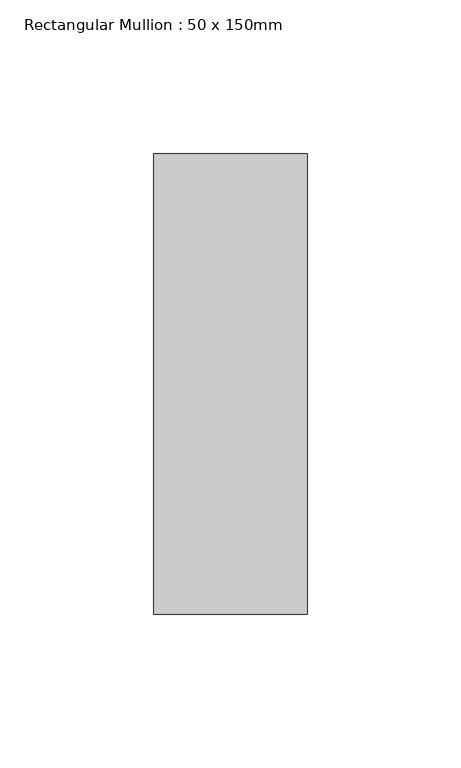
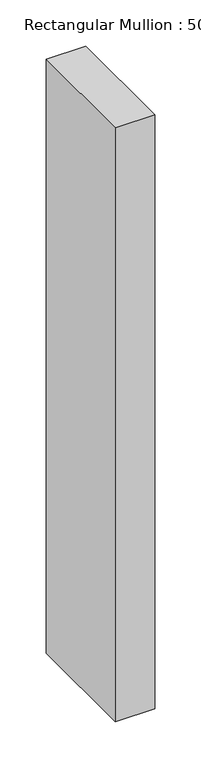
"""IFC4 building model written with IfcOpenShell, lengths in millimetres: member geometry, Rectangular Mullion : 50 x 150mm."""

import ifcopenshell
import ifcopenshell.guid

model = None  # the IFC model being written
_history = None  # IfcOwnerHistory: only IFC2X3 demands one
_inside = {}  # id of a spatial element -> (the spatial element, [elements in it])
_under = {}  # id of a project, library or spatial element -> (it, [spatial elements below it])
_declared = {}  # id of a project -> (the project, [libraries it declares])
_typed = {}  # id of a type object -> (the type object, [elements of that type])
_made_of = {}  # id of a material, layer set ... -> (it, [elements and type objects made of it])


def new_model(schema):
    """Start an empty IFC model of exactly this schema.

    Asked for "IFC4X3", IfcOpenShell would pick the latest addendum, in which some entities
    have other attributes; the version numbers below select the first issue.
    IFC2X3 requires an IfcOwnerHistory on every rooted entity: one is made here for all.
    """
    global model, _history
    if schema == "IFC4X3":
        model = ifcopenshell.file(schema_version=(4, 3, 0, 0))
    else:
        model = ifcopenshell.file(schema=schema)
    _inside.clear()
    _under.clear()
    _declared.clear()
    _typed.clear()
    _made_of.clear()
    _history = None
    if model.schema == "IFC2X3":
        org = make("IfcOrganization", Name="unknown")
        user = make(
            "IfcPersonAndOrganization",
            ThePerson=make("IfcPerson", FamilyName="unknown"),
            TheOrganization=org,
        )
        app = make(
            "IfcApplication",
            ApplicationDeveloper=org,
            Version="unknown",
            ApplicationFullName="unknown",
            ApplicationIdentifier="unknown",
        )
        _history = make(
            "IfcOwnerHistory",
            OwningUser=user,
            OwningApplication=app,
            ChangeAction="ADDED",
            CreationDate=0,
        )
    return model


def make(cls, **values):
    """One entity of the class cls with the attributes given. An attribute that is None is left unset."""
    return model.create_entity(
        cls, **{name: value for name, value in values.items() if value is not None}
    )


def rooted(cls, **values):
    """An entity with a GlobalId (a new one), such as an element, a storey or a relation."""
    return make(cls, GlobalId=ifcopenshell.guid.new(), OwnerHistory=_history, **values)


def si_unit(unit_type, name, prefix=None):
    """IfcSIUnit, for example si_unit("LENGTHUNIT", "METRE", prefix="MILLI")."""
    return make("IfcSIUnit", UnitType=unit_type, Prefix=prefix, Name=name)


def assignment(units):
    """IfcUnitAssignment: the units of a project."""
    return None if units is None else make("IfcUnitAssignment", Units=units)


def point(xyz):
    """IfcCartesianPoint."""
    return None if xyz is None else make("IfcCartesianPoint", Coordinates=xyz)


def direction(xyz):
    """IfcDirection."""
    return None if xyz is None else make("IfcDirection", DirectionRatios=xyz)


def frame(location, z_axis=None, x_axis=None):
    """IfcAxis2Placement3D, a coordinate frame: its origin and axes. An axis left out is left unset."""
    return make(
        "IfcAxis2Placement3D",
        Location=point(location),
        Axis=direction(z_axis),
        RefDirection=direction(x_axis),
    )


def origin():
    """The frame at (0, 0, 0) with its axes left unset."""
    return frame((0.0, 0.0, 0.0))


def place(relative_to, where):
    """IfcLocalPlacement: puts the frame where relative to a parent placement (None: the world)."""
    return make(
        "IfcLocalPlacement", PlacementRelTo=relative_to, RelativePlacement=where
    )


def context(
    kind, dimensions, precision=None, world=None, true_north=None, identifier=None
):
    """IfcGeometricRepresentationContext, for example the 3D "Model" context."""
    return make(
        "IfcGeometricRepresentationContext",
        ContextIdentifier=identifier,
        ContextType=kind,
        CoordinateSpaceDimension=dimensions,
        Precision=precision,
        WorldCoordinateSystem=world,
        TrueNorth=true_north,
    )


def project(units=None, contexts=None):
    """IfcProject with its units and contexts."""
    return rooted(
        "IfcProject",
        Name="project",
        RepresentationContexts=contexts,
        UnitsInContext=assignment(units),
    )


def spatial(cls, under=None, at=None, **own):
    """A site, building, storey or space (cls), placed at a placement, below another one or the project."""
    s = rooted(cls, ObjectPlacement=at, **own)
    if under is not None:
        _under.setdefault(under.id(), (under, []))[1].append(s)
    return s


def polyline(points):
    """IfcPolyline through the points."""
    return make("IfcPolyline", Points=[point(p) for p in points])


def outline(outer, holes=None, kind="AREA"):
    """IfcArbitraryClosedProfileDef: a profile drawn as a closed curve; with holes, ...WithVoids."""
    if holes is None:
        return make("IfcArbitraryClosedProfileDef", ProfileType=kind, OuterCurve=outer)
    return make(
        "IfcArbitraryProfileDefWithVoids",
        ProfileType=kind,
        OuterCurve=outer,
        InnerCurves=holes,
    )


def extrude(swept, where, along, depth):
    """IfcExtrudedAreaSolid: the profile swept, set in the frame where, extruded along a direction by depth."""
    return make(
        "IfcExtrudedAreaSolid",
        SweptArea=swept,
        Position=where,
        ExtrudedDirection=direction(along),
        Depth=depth,
    )


def shape(context_of_items, identifier, shape_type, items):
    """IfcShapeRepresentation: the items that make up one representation, for example the "Body"."""
    return make(
        "IfcShapeRepresentation",
        ContextOfItems=context_of_items,
        RepresentationIdentifier=identifier,
        RepresentationType=shape_type,
        Items=items,
    )


def source(mapping_origin, context_of_items, identifier, shape_type, items):
    """IfcRepresentationMap: a shape defined once, which mapped items show again and again."""
    return make(
        "IfcRepresentationMap",
        MappingOrigin=mapping_origin,
        MappedRepresentation=shape(context_of_items, identifier, shape_type, items),
    )


def transform(
    local_origin,
    x_axis=None,
    y_axis=None,
    z_axis=None,
    scale=None,
    scale2=None,
    scale3=None,
    uniform=True,
):
    """IfcCartesianTransformationOperator3D, or its non-uniform kind. x_axis, y_axis, z_axis: its Axis1, 2, 3."""
    if uniform:
        return make(
            "IfcCartesianTransformationOperator3D",
            Axis1=direction(x_axis),
            Axis2=direction(y_axis),
            LocalOrigin=point(local_origin),
            Scale=scale,
            Axis3=direction(z_axis),
        )
    return make(
        "IfcCartesianTransformationOperator3DnonUniform",
        Axis1=direction(x_axis),
        Axis2=direction(y_axis),
        LocalOrigin=point(local_origin),
        Scale=scale,
        Axis3=direction(z_axis),
        Scale2=scale2,
        Scale3=scale3,
    )


def mapped(mapping_source, mapping_target):
    """IfcMappedItem: shows the shape of a source again, moved by a transform."""
    return make(
        "IfcMappedItem", MappingSource=mapping_source, MappingTarget=mapping_target
    )


def made_of(thing, what):
    """Note that an element or type object is made of a material, layer set ...; save() writes the relation."""
    if what is not None:
        _made_of.setdefault(what.id(), (what, []))[1].append(thing)
    return thing


def element(
    cls,
    number,
    at=None,
    inside=None,
    cuts=None,
    type_object=None,
    material=None,
    context=None,
    identifier="Body",
    shape_type=None,
    held_by="IfcProductDefinitionShape",
    body=None,
    shapes=None,
    **own,
):
    """One element of the class cls, such as IfcWall. Its Tag is "e" and its number.

    at: its placement. inside: the storey or other place that contains it. cuts: it is an
    opening in that element (IfcRelVoidsElement). A single representation is given by context,
    identifier, shape_type and body (its items); several are given by shapes. held_by: the class
    of the entity that holds the representations. save() writes the other relations.
    """
    e = rooted(cls, Tag="e%d" % number, ObjectPlacement=at, **own)
    if body is not None:
        shapes = [shape(context, identifier, shape_type, body)]
    if shapes is not None:
        e.Representation = make(held_by, Representations=shapes)
    if inside is not None:
        _inside.setdefault(inside.id(), (inside, []))[1].append(e)
    if cuts is not None:
        rooted(
            "IfcRelVoidsElement", RelatingBuildingElement=cuts, RelatedOpeningElement=e
        )
    if type_object is not None:
        _typed.setdefault(type_object.id(), (type_object, []))[1].append(e)
    return made_of(e, material)


def aggregate(whole, parts):
    """IfcRelAggregates: a whole, such as a stair, and the parts it consists of."""
    return rooted("IfcRelAggregates", RelatingObject=whole, RelatedObjects=parts)


def save(model, path):
    """Write the relations noted so far, then the file.

    IfcRelAggregates (storeys below a building ...), IfcRelContainedInSpatialStructure (elements
    in a storey), IfcRelDefinesByType, IfcRelAssociatesMaterial and IfcRelDeclares: one each for
    every whole, place, type object, material and project.
    """
    for whole, parts in _under.values():
        aggregate(whole, parts)
    for where, things in _inside.values():
        rooted(
            "IfcRelContainedInSpatialStructure",
            RelatedElements=things,
            RelatingStructure=where,
        )
    for kind, things in _typed.values():
        rooted("IfcRelDefinesByType", RelatedObjects=things, RelatingType=kind)
    for what, things in _made_of.values():
        rooted("IfcRelAssociatesMaterial", RelatedObjects=things, RelatingMaterial=what)
    for by, libraries in _declared.values():
        rooted("IfcRelDeclares", RelatingContext=by, RelatedDefinitions=libraries)
    model.write(path)


def rectangular_mullion_50_x_150mm_db5acec3(model_context):
    return source(origin(), model_context, "Body", "SweptSolid", [
        extrude(outline(polyline([(0.0, 75.0), (0.0, -75.0), (-50.0, -75.0), (-50.0, 75.0), (0.0, 75.0)])), frame((0.0, 0.0, -788.3333335), z_axis=(0.0, 0.0, 1.0), x_axis=(1.0, 0.0, 0.0)), (0.0, 0.0, 1.0), 788.3333335),
    ])


if __name__ == "__main__":
    model = new_model("IFC4")
    model_context = context("Model", 3, world=origin())
    ifc_project = project(units=[si_unit("LENGTHUNIT", "METRE", prefix="MILLI")], contexts=[model_context])
    site = spatial("IfcSite", under=ifc_project)
    building = spatial("IfcBuilding", under=site)
    placement = place(None, origin())
    rectangular_mullion_50_x_150mm_shape = rectangular_mullion_50_x_150mm_db5acec3(model_context)
    element("IfcMember", 1, ObjectType="Rectangular Mullion : 50 x 150mm", at=placement, inside=building, context=model_context, shape_type="MappedRepresentation", body=[
        mapped(rectangular_mullion_50_x_150mm_shape, transform((0.0, 0.0, 0.0), x_axis=(1.0, 0.0, 0.0), y_axis=(0.0, 1.0, 0.0), z_axis=(0.0, 0.0, 1.0))),
    ])
    save(model, "model.ifc")
